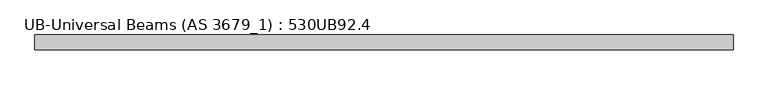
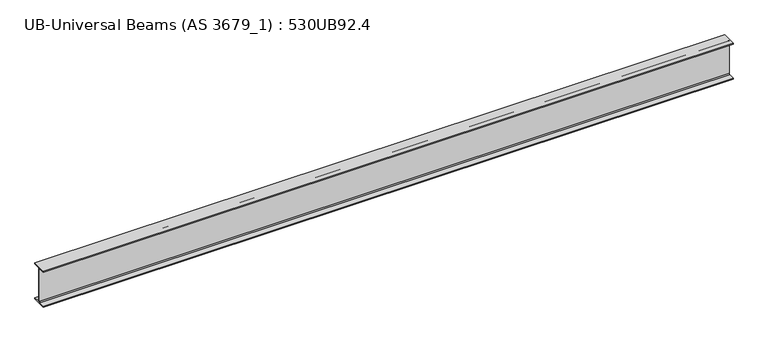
"""IFC4 building model written with IfcOpenShell, lengths in millimetres: beam geometry, UB-Universal Beams (AS 3679_1) : 530UB92.4."""

from ifc_helpers import new_model, si_unit, point, frame, frame_2d, origin, place, context, project, spatial, polyline, circle_curve, trimmed, segment, composite_curve, outline, extrude, source, transform, mapped, element, save


def ub_universal_beams_as_3679_1_530ub92_4_c07f3189(model_context):
    return source(origin(), model_context, "Body", "SweptSolid", [
        extrude(outline(composite_curve([segment(polyline([(104.5, -250.9), (104.5, -266.5), (-104.5, -266.5), (-104.5, -250.9), (-19.1, -250.9)]), True, "CONTINUOUS"), segment(trimmed(circle_curve(frame_2d((-19.1, -236.9)), 14.0), [point((-19.1, -250.9))], [point((-5.1, -236.9))], True, "CARTESIAN"), True, "CONTINUOUS"), segment(polyline([(-5.1, -236.9), (-5.1, 236.9)]), True, "CONTINUOUS"), segment(trimmed(circle_curve(frame_2d((-19.1, 236.9)), 14.0), [point((-5.1, 236.9))], [point((-19.1, 250.9))], True, "CARTESIAN"), True, "CONTINUOUS"), segment(polyline([(-19.1, 250.9), (-104.5, 250.9), (-104.5, 266.5), (104.5, 266.5), (104.5, 250.9), (19.1, 250.9)]), True, "CONTINUOUS"), segment(trimmed(circle_curve(frame_2d((19.1, 236.9)), 14.0), [point((19.1, 250.9))], [point((5.1, 236.9))], True, "CARTESIAN"), True, "CONTINUOUS"), segment(polyline([(5.1, 236.9), (5.1, -236.9)]), True, "CONTINUOUS"), segment(trimmed(circle_curve(frame_2d((19.1, -236.9)), 14.0), [point((5.1, -236.9))], [point((19.1, -250.9))], True, "CARTESIAN"), True, "CONTINUOUS"), segment(polyline([(19.1, -250.9), (104.5, -250.9)]), True, "CONTINUOUS")], self_intersect=False)), frame((-4790.9, 0.0, 0.0), z_axis=(1.0, 0.0, 0.0), x_axis=(0.0, 1.0, 0.0)), (0.0, 0.0, 1.0), 9719.5),
    ])


if __name__ == "__main__":
    model = new_model("IFC4")
    model_context = context("Model", 3, world=origin())
    ifc_project = project(units=[si_unit("LENGTHUNIT", "METRE", prefix="MILLI")], contexts=[model_context])
    site = spatial("IfcSite", under=ifc_project)
    building = spatial("IfcBuilding", under=site)
    placement = place(None, origin())
    ub_universal_beams_as_3679_1_530ub92_4_shape = ub_universal_beams_as_3679_1_530ub92_4_c07f3189(model_context)
    element("IfcBeam", 1, ObjectType="UB-Universal Beams (AS 3679_1) : 530UB92.4", at=placement, inside=building, context=model_context, shape_type="MappedRepresentation", body=[
        mapped(ub_universal_beams_as_3679_1_530ub92_4_shape, transform((0.0, 0.0, 0.0), x_axis=(1.0, 0.0, 0.0), y_axis=(0.0, 1.0, 0.0), z_axis=(0.0, 0.0, 1.0))),
    ])
    save(model, "model.ifc")
